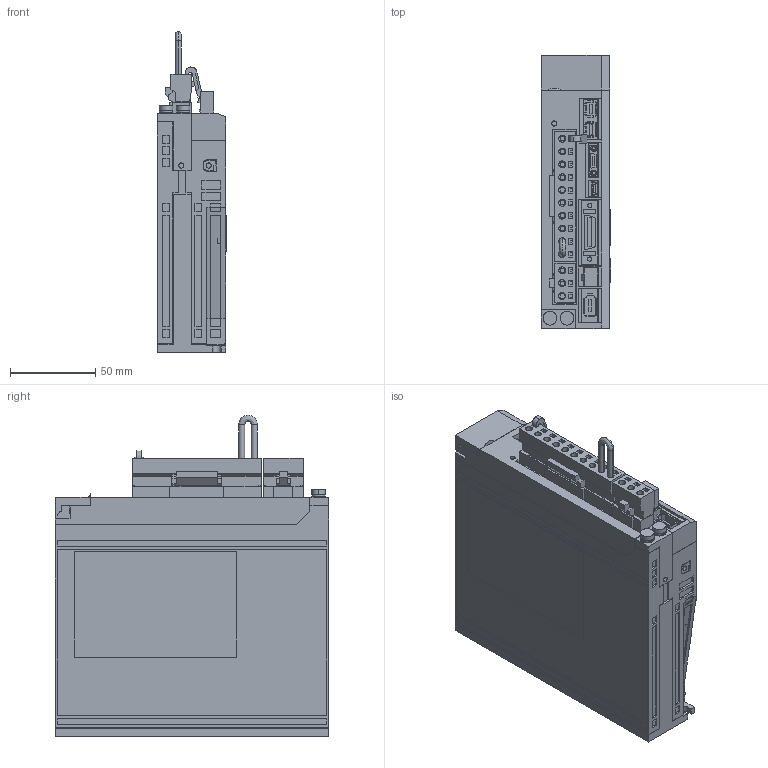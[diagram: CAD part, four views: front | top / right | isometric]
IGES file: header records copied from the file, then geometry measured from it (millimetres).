
Start section: SolidWorks IGES file using analytic representation for surfaces
Global section: file name: D:\YASKAWA\sgdv_r70a2_b.IGS; native system: SolidWorks 2006 by SolidWorks Corporation; preprocessor: SolidWorks 2006 by SolidWorks Corporation; author: yamanouchi; date: 120904.134531; units: millimetre
Bounding box: 40.5 x 160 x 188 mm (x, y, z)
Surface area: 134464.9 mm2 (no closed solid volume)
Topology: 0 solids, 0 shells, 1889 faces, 13920 edges, 13920 vertices
Faces by surface type: bspline 1723, revolution 166
